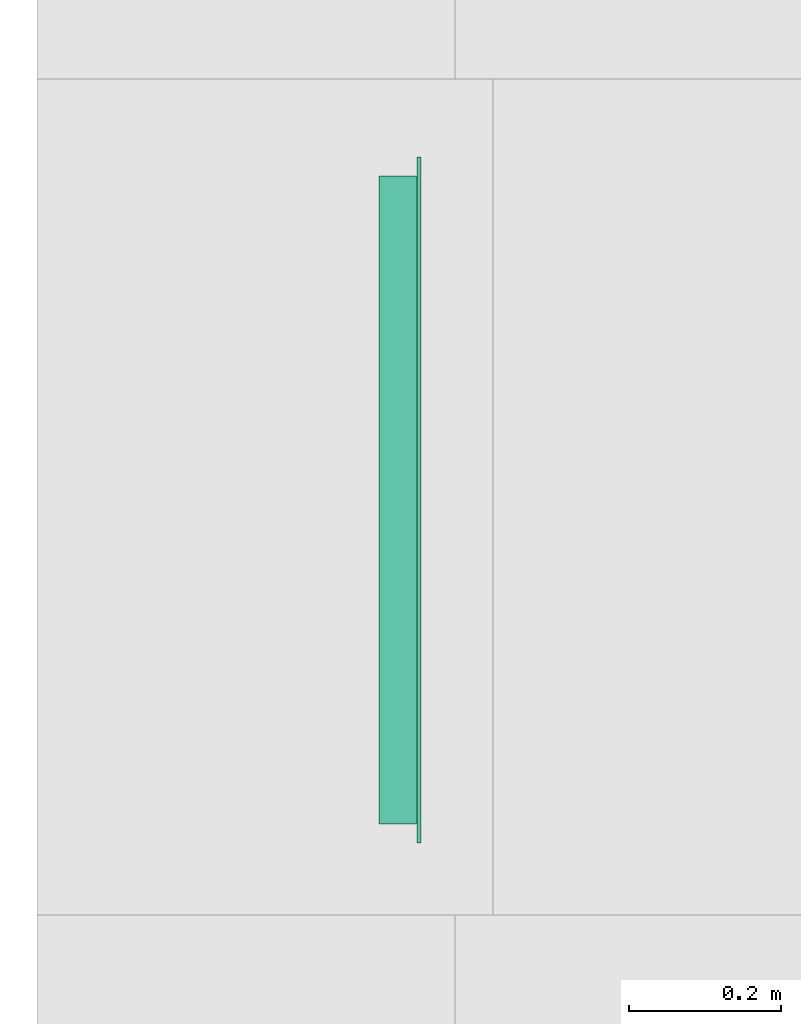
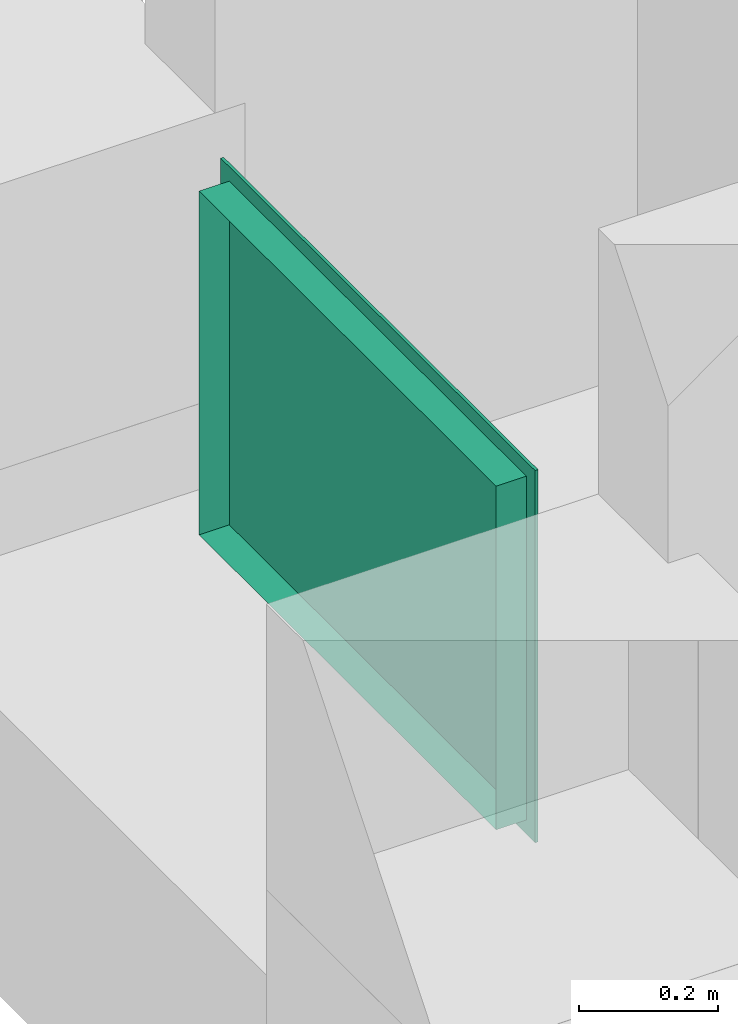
# One storey, part 7 of 11: 1 flow terminal.
"""IFC2X3 building model written with IfcOpenShell, lengths in millimetres."""

from ifc_helpers import new_model, entity, si_unit, converted_unit, derived_unit, money_unit, direction, frame, origin_with_axes, place, context, subcontext, project, spatial, open_shell, faceted_brep, surface_model, type_object, element, save


model = new_model("IFC2X3")

# Units and contexts
model_context = context("Model", 3, precision=0.01, world=origin_with_axes(), true_north=direction((0.0, 1.0)))
body_context = subcontext(model_context, "Body", "Model", "MODEL_VIEW")
ifc_project = project(units=[si_unit("LENGTHUNIT", "METRE", prefix="MILLI"), si_unit("AREAUNIT", "SQUARE_METRE"), si_unit("VOLUMEUNIT", "CUBIC_METRE"), converted_unit("PLANEANGLEUNIT", "DEGREE", entity("IfcPlaneAngleMeasure", 0.0174532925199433), si_unit("PLANEANGLEUNIT", "RADIAN"), dimensions=[0, 0, 0, 0, 0, 0, 0]), money_unit("EUR"), converted_unit("TIMEUNIT", "Year", entity("IfcTimeMeasure", 31556926.0), si_unit("TIMEUNIT", "SECOND"), dimensions=[0, 0, 1, 0, 0, 0, 0]), si_unit("MASSUNIT", "GRAM", prefix="KILO"), si_unit("THERMODYNAMICTEMPERATUREUNIT", "DEGREE_CELSIUS"), si_unit("LUMINOUSINTENSITYUNIT", "LUMEN"), si_unit("ENERGYUNIT", "JOULE", prefix="MEGA"), derived_unit("THERMALCONDUCTANCEUNIT", [(si_unit("POWERUNIT", "WATT"), 1), (si_unit("LENGTHUNIT", "METRE"), -1), (si_unit("THERMODYNAMICTEMPERATUREUNIT", "KELVIN"), -1)]), derived_unit("SPECIFICHEATCAPACITYUNIT", [(si_unit("ENERGYUNIT", "JOULE"), 1), (si_unit("MASSUNIT", "GRAM", prefix="KILO"), -1), (si_unit("THERMODYNAMICTEMPERATUREUNIT", "KELVIN"), -1)]), derived_unit("MASSDENSITYUNIT", [(si_unit("MASSUNIT", "GRAM", prefix="KILO"), 1), (si_unit("VOLUMEUNIT", "CUBIC_METRE"), -1)])], contexts=[model_context])

# Site, building, storey
site_placement = place(None, origin_with_axes())
site = spatial("IfcSite", under=ifc_project, at=site_placement, Name="Site", CompositionType="ELEMENT")
building_placement = place(site_placement, origin_with_axes())
building = spatial("IfcBuilding", under=site, at=building_placement, Name="Naam gebouw", CompositionType="ELEMENT")
storey_placement = place(building_placement, frame((0.0, 0.0, -3060.0), z_axis=(0.0, 0.0, 1.0), x_axis=(1.0, 0.0, 0.0)))
storey = spatial("IfcBuildingStorey", under=building, at=storey_placement, Name="Kelder", CompositionType="ELEMENT", Elevation=-3060.0)

# Flow terminal
air_terminal_type = type_object("IfcAirTerminalType", Name="Rooster wand rechthoekig 26", PredefinedType="GRILLE")
flow_terminal_placement = place(storey_placement, frame((30099.99999999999, 12445.99778166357, 2250.0), z_axis=(0.0, 0.0, 1.0), x_axis=(0.0, 1.0, 0.0)))
element("IfcFlowTerminal", 1, at=flow_terminal_placement, inside=storey, type_object=air_terminal_type, Name="57_Object-x", context=body_context, shape_type="SurfaceModel", body=[
    faceted_brep([(-451.0, -4.99999999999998, -326.0), (-451.0, 0.0, -326.0), (451.0, 0.0, -326.0), (451.0, -4.99999999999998, -326.0), (-451.0, -5.00000000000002, 326.0), (-451.0, 0.0, 326.0), (451.0, 0.0, 326.0), (451.0, -5.00000000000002, 326.0)], [[[0, 1, 2, 3]], [[4, 5, 1, 0]], [[1, 5, 6, 2]], [[3, 2, 6, 7]], [[0, 3, 7, 4]], [[7, 6, 5, 4]]]),
    surface_model("IfcShellBasedSurfaceModel", [(426.0, 0.0, -301.0), (426.0, 50.00000000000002, -301.0), (426.0, 49.99999999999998, 301.0), (426.0, 0.0, 301.0), (-426.0, 0.0, -301.0), (-426.0, 50.00000000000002, -301.0), (-426.0, 49.99999999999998, 301.0), (-426.0, 0.0, 301.0)], [open_shell([[[0, 1, 2, 3]], [[4, 5, 1, 0]], [[3, 2, 6, 7]], [[7, 6, 5, 4]]])]),
])

save(model, "model.ifc")
